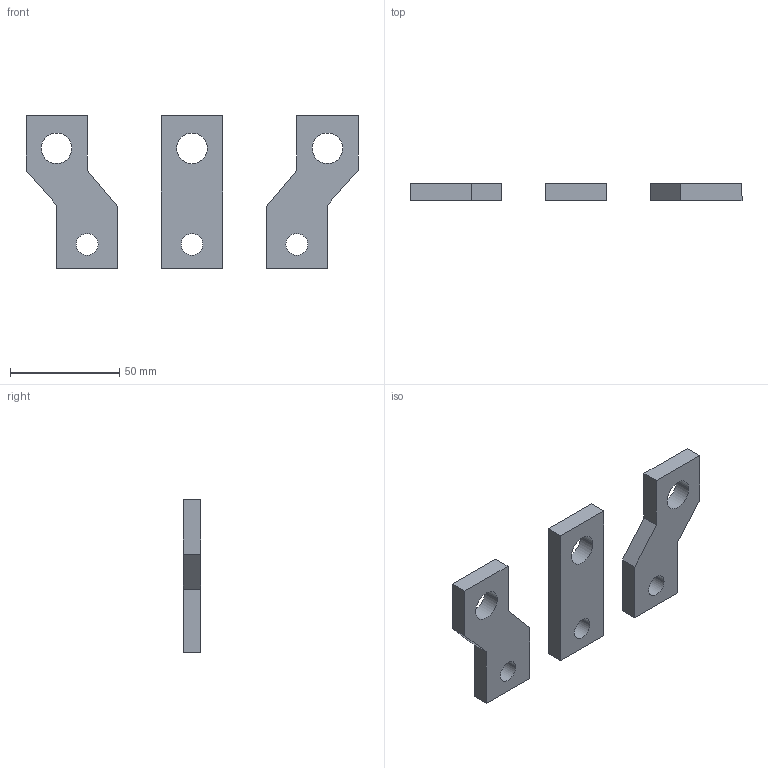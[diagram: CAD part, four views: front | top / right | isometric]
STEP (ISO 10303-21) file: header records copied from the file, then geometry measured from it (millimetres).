
FILE_DESCRIPTION (( 'STEP AP214' ), '1' );
FILE_NAME ('TGM1N-GP-400-3P.STEP', '2025-12-29T11:40:47', ( '' ), ( '' ), 'SwSTEP 2.0', 'SolidWorks 2024', '' );
FILE_SCHEMA (( 'AUTOMOTIVE_DESIGN' ));
Length unit declared in the file: millimetre
Products named in the file (7): 400ZHIPAI_1_1.stp; TGM1NE-GP-400-3P.stp; 400WANPAI1_1_1.stp; TGM1NE-GP-4001-3P; TGM1NE-GP-400-3P(straight).stp; TGM1NE-GP-400-3P(straight); TGM1N-GP-400-3P
Assembly tree (7 placements, depth 4):
  TGM1N-GP-400-3P
    TGM1NE-GP-400-3P.stp
      400WANPAI1_1_1.stp
    TGM1NE-GP-400-3P(straight)
      TGM1NE-GP-400-3P(straight).stp
        400ZHIPAI_1_1.stp
    TGM1NE-GP-4001-3P
      TGM1NE-GP-400-3P.stp
        400WANPAI1_1_1.stp
Bounding box: 152 x 8 x 70 mm (x, y, z)
Volume: 41400.1 mm3; surface area: 17029.8 mm2
Topology: 3 solids, 3 shells, 38 faces, 96 edges, 64 vertices
Faces by surface type: plane 26, cylinder 12
Entity records: 936 total; most frequent: DIRECTION 152, CARTESIAN_POINT 138, ORIENTED_EDGE 120, EDGE_CURVE 60, AXIS2_PLACEMENT_3D 54, VECTOR 44, LINE 44, VERTEX_POINT 40
